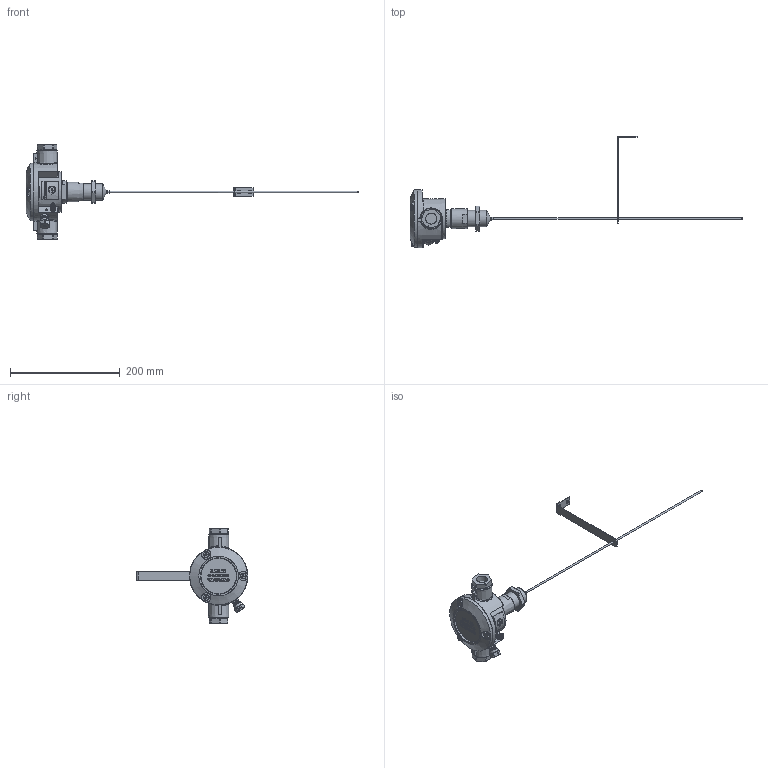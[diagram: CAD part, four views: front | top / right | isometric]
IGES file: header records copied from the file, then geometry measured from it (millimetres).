
Bounding box: 604 x 203 x 172 mm (x, y, z)
Surface area: 120504.7 mm2 (no closed solid volume)
Topology: 0 solids, 0 shells, 1082 faces, 7213 edges, 7121 vertices
Faces by surface type: bspline 793, revolution 289
